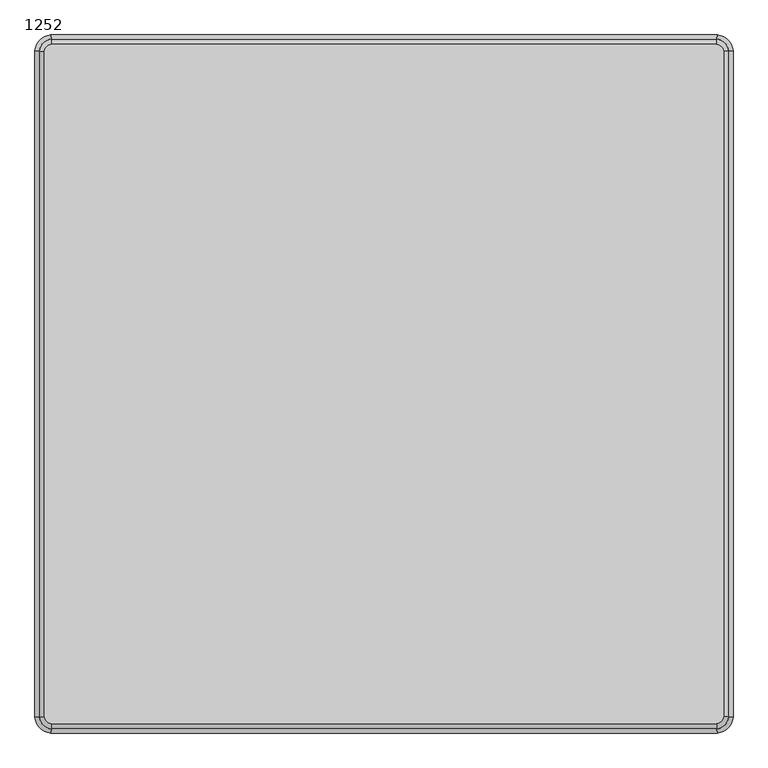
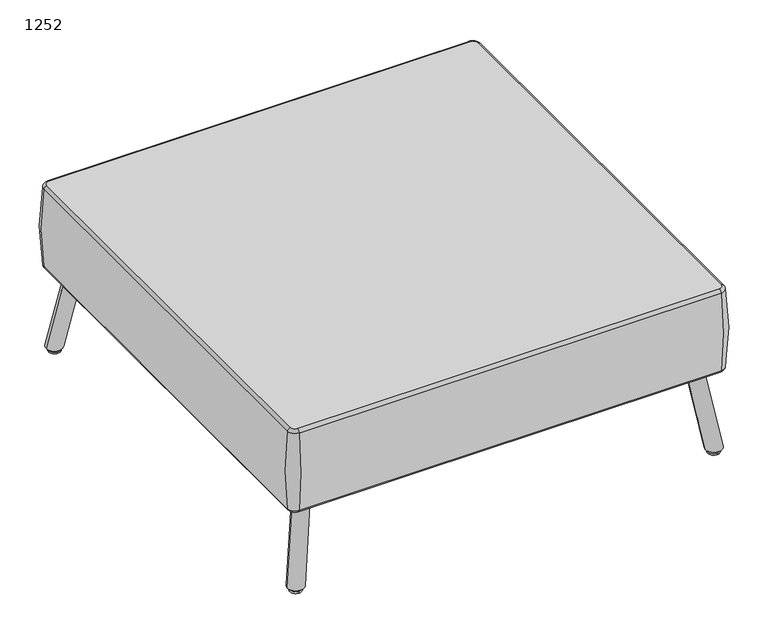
"""IFC4 building model written with IfcOpenShell, lengths in millimetres: furniture geometry, Laguna-Square_Ottomans-With_Legs-ERG : 1252."""

from ifc_helpers import new_model, si_unit, point, frame, frame_2d, origin, place, context, project, spatial, polyline, circle_curve, ellipse_curve, trimmed, segment, composite_curve, outline, extrude, source, transform, mapped, element, save
from ifc_brep_helpers import plane_surface, cylinder_surface, revolved_surface, spline_surface, advanced_brep


def furniture_1252_8d231d5f(model_context):
    return source(origin(), model_context, "Body", "SolidModel", [
        advanced_brep(
        [(-4847.9816838, 1430.0057923, 406.4), (-4858.5921184, 1419.3953577, 406.4), (-4858.5921184, 439.3163426, 406.4), (-4847.9816838, 428.705908, 406.4), (-3867.9026688, 428.705908, 406.4), (-3857.2922342, 439.3163426, 406.4), (-3857.2922342, 1419.3953577, 406.4), (-3867.9026688, 1430.0057923, 406.4), (-4858.5921184, 1419.3953577, 203.2), (-4847.9816838, 1430.0057923, 203.2), (-3867.9026688, 1430.0057923, 203.2), (-3857.2922342, 1419.3953577, 203.2), (-3857.2922342, 439.3163426, 203.2), (-3867.9026688, 428.705908, 203.2), (-4847.9816838, 428.705908, 203.2), (-4858.5921184, 439.3163426, 203.2), (-4866.1226616, 1419.9765501, 399.7887299), (-4848.5628762, 1437.5363354, 399.7887299), (-4848.5628762, 1437.5363354, 209.8112701), (-4866.1226616, 1419.9765501, 209.8112701), (-4866.1226616, 438.7351503, 209.8112701), (-4866.1226616, 438.7351503, 399.7887299), (-4848.5628762, 421.1753649, 209.8112701), (-4848.5628762, 421.1753649, 399.7887299), (-3867.3214764, 421.1753649, 209.8112701), (-3867.3214764, 421.1753649, 399.7887299), (-3849.7616911, 438.7351503, 209.8112701), (-3849.7616911, 438.7351503, 399.7887299), (-3849.7616911, 1419.9765501, 209.8112701), (-3849.7616911, 1419.9765501, 399.7887299), (-3867.3214764, 1437.5363354, 209.8112701), (-3867.3214764, 1437.5363354, 399.7887299)],
        [
            (0, 1, circle_curve(frame((-4847.0943054, 1418.5079793, 406.4), z_axis=(0.0, 0.0, 1.0), x_axis=(-0.07694918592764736, 0.997035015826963, 0.0)), 11.5320052)),
            (1, 2, circle_curve(frame((1490.877889, 929.3558502, 406.4), z_axis=(0.0, 0.0, 1.0), x_axis=(-0.9970350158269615, 0.07694918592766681, 0.0)), 6368.3520706)),
            (2, 3, circle_curve(frame((-4847.0943054, 440.2037211, 406.4), z_axis=(0.0, 0.0, 1.0), x_axis=(-0.9970350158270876, -0.07694918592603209, 0.0)), 11.5320052)),
            (3, 4, circle_curve(frame((-4357.9421763, 6778.1759155, 406.4), z_axis=(0.0, 0.0, 1.0), x_axis=(-0.07694918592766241, -0.9970350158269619, 0.0)), 6368.3520706)),
            (4, 5, circle_curve(frame((-3868.7900472, 440.2037211, 406.4), z_axis=(0.0, 0.0, 1.0), x_axis=(0.07694918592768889, -0.9970350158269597, 0.0)), 11.5320052)),
            (5, 6, circle_curve(frame((-10206.7622416, 929.3558502, 406.4), z_axis=(0.0, 0.0, 1.0), x_axis=(0.9970350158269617, -0.07694918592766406, 0.0)), 6368.3520706)),
            (6, 7, circle_curve(frame((-3868.7900472, 1418.5079793, 406.4), z_axis=(0.0, 0.0, 1.0), x_axis=(0.997035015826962, 0.07694918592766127, 0.0)), 11.5320052)),
            (7, 0, circle_curve(frame((-4357.9421763, -4919.4642152, 406.4), z_axis=(0.0, 0.0, 1.0), x_axis=(0.07694918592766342, 0.9970350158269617, 0.0)), 6368.3520706)),
            (8, 9, circle_curve(frame((-4847.0943054, 1418.5079793, 203.2), z_axis=(0.0, 0.0, -1.0), x_axis=(-0.07694918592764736, 0.997035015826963, 0.0)), 11.5320052)),
            (9, 10, circle_curve(frame((-4357.9421763, -4919.4642152, 203.2), z_axis=(0.0, 0.0, -1.0), x_axis=(0.07694918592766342, 0.9970350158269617, 0.0)), 6368.3520706)),
            (10, 11, circle_curve(frame((-3868.7900472, 1418.5079793, 203.2), z_axis=(0.0, 0.0, -1.0), x_axis=(0.997035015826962, 0.07694918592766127, 0.0)), 11.5320052)),
            (11, 12, circle_curve(frame((-10206.7622416, 929.3558502, 203.2), z_axis=(0.0, 0.0, -1.0), x_axis=(0.9970350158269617, -0.07694918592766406, 0.0)), 6368.3520706)),
            (12, 13, circle_curve(frame((-3868.7900472, 440.2037211, 203.2), z_axis=(0.0, 0.0, -1.0), x_axis=(0.07694918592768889, -0.9970350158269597, 0.0)), 11.5320052)),
            (13, 14, circle_curve(frame((-4357.9421763, 6778.1759155, 203.2), z_axis=(0.0, 0.0, -1.0), x_axis=(-0.07694918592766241, -0.9970350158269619, 0.0)), 6368.3520706)),
            (14, 15, circle_curve(frame((-4847.0943054, 440.2037211, 203.2), z_axis=(0.0, 0.0, -1.0), x_axis=(-0.9970350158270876, -0.07694918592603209, 0.0)), 11.5320052)),
            (15, 8, circle_curve(frame((1490.877889, 929.3558502, 203.2), z_axis=(0.0, 0.0, -1.0), x_axis=(-0.9970350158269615, 0.07694918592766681, 0.0)), 6368.3520706)),
            (16, 17, circle_curve(frame((-4847.0943054, 1418.5079793, 399.7887299), z_axis=(0.0, 0.0, -1.0), x_axis=(-0.07694918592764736, 0.997035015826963, 0.0)), 19.0849427)),
            (17, 18, circle_curve(frame((-4793.8339264, 728.4101931, 304.8), z_axis=(-0.997035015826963, -0.07694918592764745, 0.0), x_axis=(0.07694918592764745, -0.997035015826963, 0.0)), 717.55)),
            (18, 19, circle_curve(frame((-4847.0943054, 1418.5079793, 209.8112701), z_axis=(0.0, 0.0, 1.0), x_axis=(-0.07694918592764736, 0.997035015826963, 0.0)), 19.0849427)),
            (19, 16, circle_curve(frame((-4156.9965192, 1365.2476002, 304.8), z_axis=(0.07694918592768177, 0.9970350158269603, 0.0), x_axis=(0.9970350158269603, -0.07694918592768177, 0.0)), 717.55)),
            (16, 1, circle_curve(frame((-4858.5921184, 1419.3953577, 398.78), z_axis=(0.07694918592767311, 0.997035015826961, 0.0), x_axis=(0.997035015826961, -0.07694918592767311, 0.0)), 7.62)),
            (0, 17, circle_curve(frame((-4847.9816838, 1430.0057923, 398.78), z_axis=(-0.997035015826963, -0.07694918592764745, 0.0), x_axis=(0.07694918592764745, -0.997035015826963, 0.0)), 7.62)),
            (18, 9, circle_curve(frame((-4847.9816838, 1430.0057923, 210.82), z_axis=(-0.997035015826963, -0.07694918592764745, 0.0), x_axis=(0.07694918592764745, -0.997035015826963, 0.0)), 7.62)),
            (8, 19, circle_curve(frame((-4858.5921184, 1419.3953577, 210.82), z_axis=(0.07694918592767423, 0.9970350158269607, 0.0), x_axis=(0.9970350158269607, -0.07694918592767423, 0.0)), 7.62)),
            (19, 20, circle_curve(frame((1490.877889, 929.3558502, 209.8112701), z_axis=(0.0, 0.0, 1.0), x_axis=(-0.9970350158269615, 0.07694918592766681, 0.0)), 6375.905008)),
            (20, 21, circle_curve(frame((-4156.9965192, 493.4641001, 304.8), z_axis=(-0.07694918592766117, 0.997035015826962, 0.0), x_axis=(0.997035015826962, 0.07694918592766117, 0.0)), 717.55)),
            (21, 16, circle_curve(frame((1490.877889, 929.3558502, 399.7887299), z_axis=(0.0, 0.0, -1.0), x_axis=(-0.9970350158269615, 0.07694918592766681, 0.0)), 6375.905008)),
            (21, 2, circle_curve(frame((-4858.5921184, 439.3163426, 398.78), z_axis=(-0.07694918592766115, 0.997035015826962, 0.0), x_axis=(0.997035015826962, 0.07694918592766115, 0.0)), 7.62)),
            (15, 20, circle_curve(frame((-4858.5921184, 439.3163426, 210.82), z_axis=(-0.07694918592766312, 0.9970350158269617, 0.0), x_axis=(0.9970350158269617, 0.07694918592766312, 0.0)), 7.62)),
            (20, 22, circle_curve(frame((-4847.0943054, 440.2037211, 209.8112701), z_axis=(0.0, 0.0, 1.0), x_axis=(-0.9970350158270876, -0.07694918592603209, 0.0)), 19.0849427)),
            (22, 23, circle_curve(frame((-4793.8339264, 1130.3015072, 304.8), z_axis=(-0.9970350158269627, 0.07694918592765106, 0.0), x_axis=(0.07694918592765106, 0.9970350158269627, 0.0)), 717.55)),
            (23, 21, circle_curve(frame((-4847.0943054, 440.2037211, 399.7887299), z_axis=(0.0, 0.0, -1.0), x_axis=(-0.9970350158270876, -0.07694918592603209, 0.0)), 19.0849427)),
            (23, 3, circle_curve(frame((-4847.9816838, 428.705908, 398.78), z_axis=(-0.9970350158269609, 0.07694918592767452, 0.0), x_axis=(0.07694918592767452, 0.9970350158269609, 0.0)), 7.62)),
            (14, 22, circle_curve(frame((-4847.9816838, 428.705908, 210.82), z_axis=(-0.9970350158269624, 0.07694918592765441, 0.0), x_axis=(0.07694918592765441, 0.9970350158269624, 0.0)), 7.62)),
            (22, 24, circle_curve(frame((-4357.9421763, 6778.1759155, 209.8112701), z_axis=(0.0, 0.0, 1.0), x_axis=(-0.07694918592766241, -0.9970350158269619, 0.0)), 6375.905008)),
            (24, 25, circle_curve(frame((-3922.0504262, 1130.3015072, 304.8), z_axis=(-0.9970350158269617, -0.07694918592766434, 0.0), x_axis=(-0.07694918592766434, 0.9970350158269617, 0.0)), 717.55)),
            (25, 23, circle_curve(frame((-4357.9421763, 6778.1759155, 399.7887299), z_axis=(0.0, 0.0, -1.0), x_axis=(-0.07694918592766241, -0.9970350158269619, 0.0)), 6375.905008)),
            (25, 4, circle_curve(frame((-3867.9026688, 428.705908, 398.78), z_axis=(-0.9970350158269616, -0.07694918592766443, 0.0), x_axis=(-0.07694918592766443, 0.9970350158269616, 0.0)), 7.62)),
            (13, 24, circle_curve(frame((-3867.9026688, 428.705908, 210.82), z_axis=(-0.9970350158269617, -0.07694918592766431, 0.0), x_axis=(-0.07694918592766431, 0.9970350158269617, 0.0)), 7.62)),
            (24, 26, circle_curve(frame((-3868.7900472, 440.2037211, 209.8112701), z_axis=(0.0, 0.0, 1.0), x_axis=(0.07694918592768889, -0.9970350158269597, 0.0)), 19.0849427)),
            (26, 27, circle_curve(frame((-4558.8878334, 493.4641001, 304.8), z_axis=(-0.0769491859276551, -0.9970350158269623, 0.0), x_axis=(-0.9970350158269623, 0.0769491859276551, 0.0)), 717.55)),
            (27, 25, circle_curve(frame((-3868.7900472, 440.2037211, 399.7887299), z_axis=(0.0, 0.0, -1.0), x_axis=(0.07694918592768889, -0.9970350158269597, 0.0)), 19.0849427)),
            (27, 5, circle_curve(frame((-3857.2922342, 439.3163426, 398.78), z_axis=(-0.07694918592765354, -0.9970350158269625, 0.0), x_axis=(-0.9970350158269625, 0.07694918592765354, 0.0)), 7.62)),
            (12, 26, circle_curve(frame((-3857.2922342, 439.3163426, 210.82), z_axis=(-0.07694918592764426, -0.9970350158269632, 0.0), x_axis=(-0.9970350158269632, 0.07694918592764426, 0.0)), 7.62)),
            (26, 28, circle_curve(frame((-10206.7622416, 929.3558502, 209.8112701), z_axis=(0.0, 0.0, 1.0), x_axis=(0.9970350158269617, -0.07694918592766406, 0.0)), 6375.905008)),
            (28, 29, circle_curve(frame((-4558.8878334, 1365.2476002, 304.8), z_axis=(0.07694918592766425, -0.9970350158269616, 0.0), x_axis=(-0.9970350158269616, -0.07694918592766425, 0.0)), 717.55)),
            (29, 27, circle_curve(frame((-10206.7622416, 929.3558502, 399.7887299), z_axis=(0.0, 0.0, -1.0), x_axis=(0.9970350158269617, -0.07694918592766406, 0.0)), 6375.905008)),
            (29, 6, circle_curve(frame((-3857.2922342, 1419.3953577, 398.78), z_axis=(0.07694918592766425, -0.9970350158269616, 0.0), x_axis=(-0.9970350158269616, -0.07694918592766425, 0.0)), 7.62)),
            (11, 28, circle_curve(frame((-3857.2922342, 1419.3953577, 210.82), z_axis=(0.07694918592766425, -0.9970350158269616, 0.0), x_axis=(-0.9970350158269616, -0.07694918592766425, 0.0)), 7.62)),
            (28, 30, circle_curve(frame((-3868.7900472, 1418.5079793, 209.8112701), z_axis=(0.0, 0.0, 1.0), x_axis=(0.997035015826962, 0.07694918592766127, 0.0)), 19.0849427)),
            (30, 31, circle_curve(frame((-3922.0504262, 728.4101931, 304.8), z_axis=(0.9970350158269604, -0.07694918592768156, 0.0), x_axis=(-0.07694918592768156, -0.9970350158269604, 0.0)), 717.55)),
            (31, 29, circle_curve(frame((-3868.7900472, 1418.5079793, 399.7887299), z_axis=(0.0, 0.0, -1.0), x_axis=(0.997035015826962, 0.07694918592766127, 0.0)), 19.0849427)),
            (31, 7, circle_curve(frame((-3867.9026688, 1430.0057923, 398.78), z_axis=(0.9970350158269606, -0.07694918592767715, 0.0), x_axis=(-0.07694918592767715, -0.9970350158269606, 0.0)), 7.62)),
            (10, 30, circle_curve(frame((-3867.9026688, 1430.0057923, 210.82), z_axis=(0.9970350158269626, -0.07694918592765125, 0.0), x_axis=(-0.07694918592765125, -0.9970350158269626, 0.0)), 7.62)),
            (17, 31, circle_curve(frame((-4357.9421763, -4919.4642152, 399.7887299), z_axis=(0.0, 0.0, -1.0), x_axis=(0.07694918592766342, 0.9970350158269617, 0.0)), 6375.905008)),
            (30, 18, circle_curve(frame((-4357.9421763, -4919.4642152, 209.8112701), z_axis=(0.0, 0.0, 1.0), x_axis=(0.07694918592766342, 0.9970350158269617, 0.0)), 6375.905008)),
        ],
        [
            plane_surface(frame((-4835.5623002, 1418.5079793, 406.4), z_axis=(0.0, 0.0, 1.0), x_axis=(0.0, 1.0, 0.0))),
            plane_surface(frame((-4835.5623002, 1418.5079793, 203.2), z_axis=(0.0, 0.0, -1.0), x_axis=(0.0, -1.0, 0.0))),
            revolved_surface(trimmed(ellipse_curve(frame((-4793.8339264, 728.4101931, 304.8), z_axis=(0.997035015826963, 0.07694918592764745, 0.0), x_axis=(0.07694918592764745, -0.997035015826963, 0.0)), 717.55, 717.55), [point((-4848.5628762, 1437.5363354, 209.8112701))], [point((-4848.5628762, 1437.5363354, 399.7887299))], True, "CARTESIAN"), (-4847.0943054, 1418.5079793, 0.0), (0.0, 0.0, 1.0)),
            revolved_surface(trimmed(ellipse_curve(frame((-4847.9816838, 1430.0057923, 398.78), z_axis=(0.997035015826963, 0.07694918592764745, 0.0), x_axis=(0.07694918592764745, -0.997035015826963, 0.0)), 7.62, 7.62), [point((-4848.5628762, 1437.5363354, 399.7887299))], [point((-4847.9816838, 1430.0057923, 406.4))], True, "CARTESIAN"), (-4847.0943054, 1418.5079793, 0.0), (0.0, 0.0, 1.0)),
            revolved_surface(trimmed(ellipse_curve(frame((-4847.9816838, 1430.0057923, 210.82), z_axis=(0.997035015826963, 0.07694918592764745, 0.0), x_axis=(0.07694918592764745, -0.997035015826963, 0.0)), 7.62, 7.62), [point((-4847.9816838, 1430.0057923, 203.2))], [point((-4848.5628762, 1437.5363354, 209.8112701))], True, "CARTESIAN"), (-4847.0943054, 1418.5079793, 0.0), (0.0, 0.0, 1.0)),
            revolved_surface(trimmed(ellipse_curve(frame((-4156.9965192, 1365.2476002, 304.8), z_axis=(0.07694918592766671, 0.9970350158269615, 0.0), x_axis=(0.9970350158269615, -0.07694918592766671, 0.0)), 717.55, 717.55), [point((-4866.1226616, 1419.9765501, 209.8112701))], [point((-4866.1226616, 1419.9765501, 399.7887299))], True, "CARTESIAN"), (1490.877889, 929.3558502, 0.0), (0.0, 0.0, 1.0)),
            revolved_surface(trimmed(ellipse_curve(frame((-4858.5921184, 1419.3953577, 398.78), z_axis=(0.07694918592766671, 0.9970350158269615, 0.0), x_axis=(0.9970350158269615, -0.07694918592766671, 0.0)), 7.62, 7.62), [point((-4866.1226616, 1419.9765501, 399.7887299))], [point((-4858.5921184, 1419.3953577, 406.4))], True, "CARTESIAN"), (1490.877889, 929.3558502, 0.0), (0.0, 0.0, 1.0)),
            revolved_surface(trimmed(ellipse_curve(frame((-4858.5921184, 1419.3953577, 210.82), z_axis=(0.07694918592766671, 0.9970350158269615, 0.0), x_axis=(0.9970350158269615, -0.07694918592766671, 0.0)), 7.62, 7.62), [point((-4858.5921184, 1419.3953577, 203.2))], [point((-4866.1226616, 1419.9765501, 209.8112701))], True, "CARTESIAN"), (1490.877889, 929.3558502, 0.0), (0.0, 0.0, 1.0)),
            revolved_surface(trimmed(ellipse_curve(frame((-4156.9965192, 493.4641001, 304.8), z_axis=(-0.07694918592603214, 0.9970350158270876, 0.0), x_axis=(0.9970350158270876, 0.07694918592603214, 0.0)), 717.55, 717.55), [point((-4866.1226616, 438.7351503, 209.8112701))], [point((-4866.1226616, 438.7351503, 399.7887299))], True, "CARTESIAN"), (-4847.0943054, 440.2037211, 0.0), (0.0, 0.0, 1.0)),
            revolved_surface(trimmed(ellipse_curve(frame((-4858.5921184, 439.3163426, 398.78), z_axis=(-0.07694918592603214, 0.9970350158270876, 0.0), x_axis=(0.9970350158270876, 0.07694918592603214, 0.0)), 7.62, 7.62), [point((-4866.1226616, 438.7351503, 399.7887299))], [point((-4858.5921184, 439.3163426, 406.4))], True, "CARTESIAN"), (-4847.0943054, 440.2037211, 0.0), (0.0, 0.0, 1.0)),
            revolved_surface(trimmed(ellipse_curve(frame((-4858.5921184, 439.3163426, 210.82), z_axis=(-0.07694918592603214, 0.9970350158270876, 0.0), x_axis=(0.9970350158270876, 0.07694918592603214, 0.0)), 7.62, 7.62), [point((-4858.5921184, 439.3163426, 203.2))], [point((-4866.1226616, 438.7351503, 209.8112701))], True, "CARTESIAN"), (-4847.0943054, 440.2037211, 0.0), (0.0, 0.0, 1.0)),
            revolved_surface(trimmed(ellipse_curve(frame((-4793.8339264, 1130.3015072, 304.8), z_axis=(-0.9970350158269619, 0.07694918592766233, 0.0), x_axis=(0.07694918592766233, 0.9970350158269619, 0.0)), 717.55, 717.55), [point((-4848.5628762, 421.1753649, 209.8112701))], [point((-4848.5628762, 421.1753649, 399.7887299))], True, "CARTESIAN"), (-4357.9421763, 6778.1759155, 0.0), (0.0, 0.0, 1.0)),
            revolved_surface(trimmed(ellipse_curve(frame((-4847.9816838, 428.705908, 398.78), z_axis=(-0.9970350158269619, 0.07694918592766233, 0.0), x_axis=(0.07694918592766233, 0.9970350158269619, 0.0)), 7.62, 7.62), [point((-4848.5628762, 421.1753649, 399.7887299))], [point((-4847.9816838, 428.705908, 406.4))], True, "CARTESIAN"), (-4357.9421763, 6778.1759155, 0.0), (0.0, 0.0, 1.0)),
            revolved_surface(trimmed(ellipse_curve(frame((-4847.9816838, 428.705908, 210.82), z_axis=(-0.9970350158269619, 0.07694918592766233, 0.0), x_axis=(0.07694918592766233, 0.9970350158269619, 0.0)), 7.62, 7.62), [point((-4847.9816838, 428.705908, 203.2))], [point((-4848.5628762, 421.1753649, 209.8112701))], True, "CARTESIAN"), (-4357.9421763, 6778.1759155, 0.0), (0.0, 0.0, 1.0)),
            revolved_surface(trimmed(ellipse_curve(frame((-3922.0504262, 1130.3015072, 304.8), z_axis=(-0.9970350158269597, -0.07694918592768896, 0.0), x_axis=(-0.07694918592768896, 0.9970350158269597, 0.0)), 717.55, 717.55), [point((-3867.3214764, 421.1753649, 209.8112701))], [point((-3867.3214764, 421.1753649, 399.7887299))], True, "CARTESIAN"), (-3868.7900472, 440.2037211, 0.0), (0.0, 0.0, 1.0)),
            revolved_surface(trimmed(ellipse_curve(frame((-3867.9026688, 428.705908, 398.78), z_axis=(-0.9970350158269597, -0.07694918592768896, 0.0), x_axis=(-0.07694918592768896, 0.9970350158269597, 0.0)), 7.62, 7.62), [point((-3867.3214764, 421.1753649, 399.7887299))], [point((-3867.9026688, 428.705908, 406.4))], True, "CARTESIAN"), (-3868.7900472, 440.2037211, 0.0), (0.0, 0.0, 1.0)),
            revolved_surface(trimmed(ellipse_curve(frame((-3867.9026688, 428.705908, 210.82), z_axis=(-0.9970350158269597, -0.07694918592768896, 0.0), x_axis=(-0.07694918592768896, 0.9970350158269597, 0.0)), 7.62, 7.62), [point((-3867.9026688, 428.705908, 203.2))], [point((-3867.3214764, 421.1753649, 209.8112701))], True, "CARTESIAN"), (-3868.7900472, 440.2037211, 0.0), (0.0, 0.0, 1.0)),
            revolved_surface(trimmed(ellipse_curve(frame((-4558.8878334, 493.4641001, 304.8), z_axis=(-0.07694918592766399, -0.9970350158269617, 0.0), x_axis=(-0.9970350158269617, 0.07694918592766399, 0.0)), 717.55, 717.55), [point((-3849.7616911, 438.7351503, 209.8112701))], [point((-3849.7616911, 438.7351503, 399.7887299))], True, "CARTESIAN"), (-10206.7622416, 929.3558502, 0.0), (0.0, 0.0, 1.0)),
            revolved_surface(trimmed(ellipse_curve(frame((-3857.2922342, 439.3163426, 398.78), z_axis=(-0.07694918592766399, -0.9970350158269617, 0.0), x_axis=(-0.9970350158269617, 0.07694918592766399, 0.0)), 7.62, 7.62), [point((-3849.7616911, 438.7351503, 399.7887299))], [point((-3857.2922342, 439.3163426, 406.4))], True, "CARTESIAN"), (-10206.7622416, 929.3558502, 0.0), (0.0, 0.0, 1.0)),
            revolved_surface(trimmed(ellipse_curve(frame((-3857.2922342, 439.3163426, 210.82), z_axis=(-0.07694918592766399, -0.9970350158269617, 0.0), x_axis=(-0.9970350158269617, 0.07694918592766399, 0.0)), 7.62, 7.62), [point((-3857.2922342, 439.3163426, 203.2))], [point((-3849.7616911, 438.7351503, 209.8112701))], True, "CARTESIAN"), (-10206.7622416, 929.3558502, 0.0), (0.0, 0.0, 1.0)),
            revolved_surface(trimmed(ellipse_curve(frame((-4558.8878334, 1365.2476002, 304.8), z_axis=(0.0769491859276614, -0.997035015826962, 0.0), x_axis=(-0.997035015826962, -0.0769491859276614, 0.0)), 717.55, 717.55), [point((-3849.7616911, 1419.9765501, 209.8112701))], [point((-3849.7616911, 1419.9765501, 399.7887299))], True, "CARTESIAN"), (-3868.7900472, 1418.5079793, 0.0), (0.0, 0.0, 1.0)),
            revolved_surface(trimmed(ellipse_curve(frame((-3857.2922342, 1419.3953577, 398.78), z_axis=(0.0769491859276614, -0.997035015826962, 0.0), x_axis=(-0.997035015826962, -0.0769491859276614, 0.0)), 7.62, 7.62), [point((-3849.7616911, 1419.9765501, 399.7887299))], [point((-3857.2922342, 1419.3953577, 406.4))], True, "CARTESIAN"), (-3868.7900472, 1418.5079793, 0.0), (0.0, 0.0, 1.0)),
            revolved_surface(trimmed(ellipse_curve(frame((-3857.2922342, 1419.3953577, 210.82), z_axis=(0.0769491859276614, -0.997035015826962, 0.0), x_axis=(-0.997035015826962, -0.0769491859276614, 0.0)), 7.62, 7.62), [point((-3857.2922342, 1419.3953577, 203.2))], [point((-3849.7616911, 1419.9765501, 209.8112701))], True, "CARTESIAN"), (-3868.7900472, 1418.5079793, 0.0), (0.0, 0.0, 1.0)),
            revolved_surface(trimmed(ellipse_curve(frame((-3922.0504262, 728.4101931, 304.8), z_axis=(0.9970350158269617, -0.07694918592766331, 0.0), x_axis=(-0.07694918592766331, -0.9970350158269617, 0.0)), 717.55, 717.55), [point((-3867.3214764, 1437.5363354, 209.8112701))], [point((-3867.3214764, 1437.5363354, 399.7887299))], True, "CARTESIAN"), (-4357.9421763, -4919.4642152, 0.0), (0.0, 0.0, 1.0)),
            revolved_surface(trimmed(ellipse_curve(frame((-3867.9026688, 1430.0057923, 398.78), z_axis=(0.9970350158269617, -0.07694918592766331, 0.0), x_axis=(-0.07694918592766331, -0.9970350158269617, 0.0)), 7.62, 7.62), [point((-3867.3214764, 1437.5363354, 399.7887299))], [point((-3867.9026688, 1430.0057923, 406.4))], True, "CARTESIAN"), (-4357.9421763, -4919.4642152, 0.0), (0.0, 0.0, 1.0)),
            revolved_surface(trimmed(ellipse_curve(frame((-3867.9026688, 1430.0057923, 210.82), z_axis=(0.9970350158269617, -0.07694918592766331, 0.0), x_axis=(-0.07694918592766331, -0.9970350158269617, 0.0)), 7.62, 7.62), [point((-3867.9026688, 1430.0057923, 203.2))], [point((-3867.3214764, 1437.5363354, 209.8112701))], True, "CARTESIAN"), (-4357.9421763, -4919.4642152, 0.0), (0.0, 0.0, 1.0)),
        ],
        [
            (0, [[1, 2, 3, 4, 5, 6, 7, 8]]),
            (1, [[9, 10, 11, 12, 13, 14, 15, 16]]),
            (2, [[17, 18, 19, 20]]),
            (3, [[-17, 21, -1, 22]]),
            (4, [[-19, 23, -9, 24]]),
            (5, [[-20, 25, 26, 27]]),
            (6, [[-21, -27, 28, -2]]),
            (7, [[-24, -16, 29, -25]]),
            (8, [[-26, 30, 31, 32]]),
            (9, [[-28, -32, 33, -3]]),
            (10, [[-29, -15, 34, -30]]),
            (11, [[-31, 35, 36, 37]]),
            (12, [[-33, -37, 38, -4]]),
            (13, [[-34, -14, 39, -35]]),
            (14, [[-36, 40, 41, 42]]),
            (15, [[-38, -42, 43, -5]]),
            (16, [[-39, -13, 44, -40]]),
            (17, [[-41, 45, 46, 47]]),
            (18, [[-43, -47, 48, -6]]),
            (19, [[-44, -12, 49, -45]]),
            (20, [[-46, 50, 51, 52]]),
            (21, [[-48, -52, 53, -7]]),
            (22, [[-49, -11, 54, -50]]),
            (23, [[-18, 55, -51, 56]]),
            (24, [[-22, -8, -53, -55]]),
            (25, [[-23, -56, -54, -10]]),
        ],
    ),
        extrude(outline(composite_curve([segment(trimmed(circle_curve(frame_2d((-4806.8187381, 1421.3376413)), 5.08), [point((-4810.4108405, 1424.9297438))], [point((-4803.2266356, 1424.9297438))], False, "CARTESIAN"), True, "CONTINUOUS"), segment(polyline([(-4803.2266356, 1424.9297438), (-4774.489816, 1396.1929242)]), True, "CONTINUOUS"), segment(trimmed(circle_curve(frame_2d((-4778.0819185, 1392.6008217)), 5.08), [point((-4774.489816, 1396.1929242))], [point((-4774.489816, 1389.0087193))], False, "CARTESIAN"), True, "CONTINUOUS"), segment(polyline([(-4774.489816, 1389.0087193), (-4817.5950454, 1345.9034899)]), True, "CONTINUOUS"), segment(trimmed(circle_curve(frame_2d((-4821.1871479, 1349.4955923)), 5.08), [point((-4817.5950454, 1345.9034899))], [point((-4824.7792503, 1345.9034899))], False, "CARTESIAN"), True, "CONTINUOUS"), segment(polyline([(-4824.7792503, 1345.9034899), (-4853.5160699, 1374.6403095)]), True, "CONTINUOUS"), segment(trimmed(circle_curve(frame_2d((-4849.9239674, 1378.2324119)), 5.08), [point((-4853.5160699, 1374.6403095))], [point((-4853.5160699, 1381.8245144))], False, "CARTESIAN"), True, "CONTINUOUS"), segment(polyline([(-4853.5160699, 1381.8245144), (-4810.4108405, 1424.9297438)]), True, "CONTINUOUS")], self_intersect=False)), frame((0.0, 0.0, 200.66), z_axis=(0.0, 0.0, 1.0), x_axis=(1.0, 0.0, 0.0)), (0.0, 0.0, 1.0), 2.54),
        extrude(outline(composite_curve([segment(polyline([(-3905.4735121, 1424.9297438), (-3862.3682827, 1381.8245144)]), True, "CONTINUOUS"), segment(trimmed(circle_curve(frame_2d((-3865.9603852, 1378.2324119)), 5.08), [point((-3862.3682827, 1381.8245144))], [point((-3862.3682827, 1374.6403095))], False, "CARTESIAN"), True, "CONTINUOUS"), segment(polyline([(-3862.3682827, 1374.6403095), (-3891.1051023, 1345.9034899)]), True, "CONTINUOUS"), segment(trimmed(circle_curve(frame_2d((-3894.6972048, 1349.4955923)), 5.08), [point((-3891.1051023, 1345.9034899))], [point((-3898.2893072, 1345.9034899))], False, "CARTESIAN"), True, "CONTINUOUS"), segment(polyline([(-3898.2893072, 1345.9034899), (-3941.3945366, 1389.0087193)]), True, "CONTINUOUS"), segment(trimmed(circle_curve(frame_2d((-3937.8024341, 1392.6008217)), 5.08), [point((-3941.3945366, 1389.0087193))], [point((-3941.3945366, 1396.1929242))], False, "CARTESIAN"), True, "CONTINUOUS"), segment(polyline([(-3941.3945366, 1396.1929242), (-3912.657717, 1424.9297438)]), True, "CONTINUOUS"), segment(trimmed(circle_curve(frame_2d((-3909.0656145, 1421.3376413)), 5.08), [point((-3912.657717, 1424.9297438))], [point((-3905.4735121, 1424.9297438))], False, "CARTESIAN"), True, "CONTINUOUS")], self_intersect=False)), frame((0.0, 0.0, 200.66), z_axis=(0.0, 0.0, 1.0), x_axis=(1.0, 0.0, 0.0)), (0.0, 0.0, 1.0), 2.54),
        extrude(outline(composite_curve([segment(trimmed(circle_curve(frame_2d((-3865.9603852, 480.4792884)), 5.08), [point((-3862.3682827, 484.0713909))], [point((-3862.3682827, 476.887186))], False, "CARTESIAN"), True, "CONTINUOUS"), segment(polyline([(-3862.3682827, 476.887186), (-3905.4735121, 433.7819566)]), True, "CONTINUOUS"), segment(trimmed(circle_curve(frame_2d((-3909.0656145, 437.374059)), 5.08), [point((-3905.4735121, 433.7819566))], [point((-3912.657717, 433.7819566))], False, "CARTESIAN"), True, "CONTINUOUS"), segment(polyline([(-3912.657717, 433.7819566), (-3941.3945366, 462.5187762)]), True, "CONTINUOUS"), segment(trimmed(circle_curve(frame_2d((-3937.8024341, 466.1108786)), 5.08), [point((-3941.3945366, 462.5187762))], [point((-3941.3945366, 469.7029811))], False, "CARTESIAN"), True, "CONTINUOUS"), segment(polyline([(-3941.3945366, 469.7029811), (-3898.2893072, 512.8082105)]), True, "CONTINUOUS"), segment(trimmed(circle_curve(frame_2d((-3894.6972048, 509.216108)), 5.08), [point((-3898.2893072, 512.8082105))], [point((-3891.1051023, 512.8082105))], False, "CARTESIAN"), True, "CONTINUOUS"), segment(polyline([(-3891.1051023, 512.8082105), (-3862.3682827, 484.0713909)]), True, "CONTINUOUS")], self_intersect=False)), frame((0.0, 0.0, 200.66), z_axis=(0.0, 0.0, 1.0), x_axis=(1.0, 0.0, 0.0)), (0.0, 0.0, 1.0), 2.54),
        extrude(outline(composite_curve([segment(polyline([(-4817.5950454, 512.8082105), (-4774.489816, 469.7029811)]), True, "CONTINUOUS"), segment(trimmed(circle_curve(frame_2d((-4778.0819185, 466.1108786)), 5.08), [point((-4774.489816, 469.7029811))], [point((-4774.489816, 462.5187762))], False, "CARTESIAN"), True, "CONTINUOUS"), segment(polyline([(-4774.489816, 462.5187762), (-4803.2266356, 433.7819566)]), True, "CONTINUOUS"), segment(trimmed(circle_curve(frame_2d((-4806.8187381, 437.374059)), 5.08), [point((-4803.2266356, 433.7819566))], [point((-4810.4108405, 433.7819566))], False, "CARTESIAN"), True, "CONTINUOUS"), segment(polyline([(-4810.4108405, 433.7819566), (-4853.5160699, 476.887186)]), True, "CONTINUOUS"), segment(trimmed(circle_curve(frame_2d((-4849.9239674, 480.4792884)), 5.08), [point((-4853.5160699, 476.887186))], [point((-4853.5160699, 484.0713909))], False, "CARTESIAN"), True, "CONTINUOUS"), segment(polyline([(-4853.5160699, 484.0713909), (-4824.7792503, 512.8082105)]), True, "CONTINUOUS"), segment(trimmed(circle_curve(frame_2d((-4821.1871479, 509.216108)), 5.08), [point((-4824.7792503, 512.8082105))], [point((-4817.5950454, 512.8082105))], False, "CARTESIAN"), True, "CONTINUOUS")], self_intersect=False)), frame((0.0, 0.0, 200.66), z_axis=(0.0, 0.0, 1.0), x_axis=(1.0, 0.0, 0.0)), (0.0, 0.0, 1.0), 2.54),
        advanced_brep(
        [(-4843.7048436, 447.836231, 10.16), (-4843.7048436, 439.3501347, 10.16), (-4843.7048436, 439.3501347, 3.9615026), (-4843.7048436, 447.836231, 3.9615026), (-4843.7048436, 429.5148294, 3.9615026), (-4843.7048436, 457.6715363, 3.9615026), (-4843.7048436, 429.5148294, 0.0), (-4843.7048436, 457.6715363, 0.0), (-4843.7048436, 443.5931828, 0.0), (-4843.7048436, 443.5931828, 10.16)],
        [
            (0, 1, circle_curve(frame((-4843.7048436, 443.5931828, 10.16), z_axis=(0.0, 0.0, -1.0), x_axis=(0.0, -1.0, 0.0)), 4.2430482)),
            (1, 2),
            (2, 3, circle_curve(frame((-4843.7048436, 443.5931828, 3.9615026), z_axis=(0.0, 0.0, 1.0), x_axis=(0.0, -1.0, 0.0)), 4.2430482)),
            (3, 0),
            (1, 0, circle_curve(frame((-4843.7048436, 443.5931828, 10.16), z_axis=(0.0, 0.0, -1.0), x_axis=(0.0, -1.0, 0.0)), 4.2430482)),
            (3, 2, circle_curve(frame((-4843.7048436, 443.5931828, 3.9615026), z_axis=(0.0, 0.0, 1.0), x_axis=(0.0, -1.0, 0.0)), 4.2430482)),
            (2, 4),
            (4, 5, circle_curve(frame((-4843.7048436, 443.5931828, 3.9615026), z_axis=(0.0, 0.0, 1.0), x_axis=(0.0, -1.0, 0.0)), 14.0783534)),
            (5, 3),
            (5, 4, circle_curve(frame((-4843.7048436, 443.5931828, 3.9615026), z_axis=(0.0, 0.0, 1.0), x_axis=(0.0, -1.0, 0.0)), 14.0783534)),
            (4, 6),
            (6, 7, circle_curve(frame((-4843.7048436, 443.5931828, 0.0), z_axis=(0.0, 0.0, 1.0), x_axis=(0.0, -1.0, 0.0)), 14.0783534)),
            (7, 5),
            (7, 6, circle_curve(frame((-4843.7048436, 443.5931828, 0.0), z_axis=(0.0, 0.0, 1.0), x_axis=(0.0, -1.0, 0.0)), 14.0783534)),
            (6, 8),
            (8, 7),
            (9, 1),
            (0, 9),
        ],
        [
            cylinder_surface(frame((-4843.7048436, 443.5931828, 20.9252452), z_axis=(0.0, 0.0, 1.0), x_axis=(0.0, -1.0, 0.0)), 4.2430482),
            plane_surface(frame((-4843.7048436, 443.5931828, 3.9615026), z_axis=(0.0, 0.0, 1.0), x_axis=(0.0, -1.0, 0.0))),
            cylinder_surface(frame((-4843.7048436, 443.5931828, 20.9252452), z_axis=(0.0, 0.0, 1.0), x_axis=(0.0, -1.0, 0.0)), 14.0783534),
            plane_surface(frame((-4843.7048436, 443.5931828, 0.0), z_axis=(0.0, 0.0, -1.0), x_axis=(0.0, -1.0, 0.0))),
            plane_surface(frame((-4843.7048436, 443.5931828, 10.16), z_axis=(0.0, 0.0, 1.0), x_axis=(0.0, -1.0, 0.0))),
        ],
        [
            (0, [[1, 2, 3, 4]]),
            (0, [[5, -4, 6, -2]]),
            (1, [[-3, 7, 8, 9]]),
            (1, [[-6, -9, 10, -7]]),
            (2, [[-8, 11, 12, 13]]),
            (2, [[-10, -13, 14, -11]]),
            (3, [[-12, 15, 16]]),
            (3, [[-14, -16, -15]]),
            (4, [[17, -1, 18]]),
            (4, [[-18, -5, -17]]),
        ],
    ),
        advanced_brep(
        [(-4843.7048436, 1419.3615656, 3.9615026), (-4843.7048436, 1410.8754693, 3.9615026), (-4843.7048436, 1401.0401641, 3.9615026), (-4843.7048436, 1429.1968709, 3.9615026), (-4843.7048436, 1401.0401641, 0.0), (-4843.7048436, 1429.1968709, 0.0), (-4843.7048436, 1415.1185175, 0.0), (-4843.7048436, 1415.1185175, 10.16), (-4843.7048436, 1410.8754693, 10.16), (-4843.7048436, 1419.3615656, 10.16)],
        [
            (0, 1, circle_curve(frame((-4843.7048436, 1415.1185175, 3.9615026), z_axis=(0.0, 0.0, -1.0), x_axis=(0.0, -1.0, 0.0)), 4.2430481)),
            (1, 2),
            (2, 3, circle_curve(frame((-4843.7048436, 1415.1185175, 3.9615026), z_axis=(0.0, 0.0, 1.0), x_axis=(0.0, -1.0, 0.0)), 14.0783534)),
            (3, 0),
            (1, 0, circle_curve(frame((-4843.7048436, 1415.1185175, 3.9615026), z_axis=(0.0, 0.0, -1.0), x_axis=(0.0, -1.0, 0.0)), 4.2430481)),
            (3, 2, circle_curve(frame((-4843.7048436, 1415.1185175, 3.9615026), z_axis=(0.0, 0.0, 1.0), x_axis=(0.0, -1.0, 0.0)), 14.0783534)),
            (2, 4),
            (4, 5, circle_curve(frame((-4843.7048436, 1415.1185175, 0.0), z_axis=(0.0, 0.0, 1.0), x_axis=(0.0, -1.0, 0.0)), 14.0783534)),
            (5, 3),
            (5, 4, circle_curve(frame((-4843.7048436, 1415.1185175, 0.0), z_axis=(0.0, 0.0, 1.0), x_axis=(0.0, -1.0, 0.0)), 14.0783534)),
            (4, 6),
            (6, 5),
            (7, 8),
            (8, 9, circle_curve(frame((-4843.7048436, 1415.1185175, 10.16), z_axis=(0.0, 0.0, 1.0), x_axis=(0.0, -1.0, 0.0)), 4.2430481)),
            (9, 7),
            (9, 8, circle_curve(frame((-4843.7048436, 1415.1185175, 10.16), z_axis=(0.0, 0.0, 1.0), x_axis=(0.0, -1.0, 0.0)), 4.2430481)),
            (8, 1),
            (0, 9),
        ],
        [
            plane_surface(frame((-4843.7048436, 1415.1185175, 3.9615026), z_axis=(0.0, 0.0, 1.0), x_axis=(0.0, -1.0, 0.0))),
            cylinder_surface(frame((-4843.7048436, 1415.1185175, 29.21), z_axis=(0.0, 0.0, 1.0), x_axis=(0.0, -1.0, 0.0)), 14.0783534),
            plane_surface(frame((-4843.7048436, 1415.1185175, 0.0), z_axis=(0.0, 0.0, -1.0), x_axis=(0.0, -1.0, 0.0))),
            plane_surface(frame((-4843.7048436, 1415.1185175, 10.16), z_axis=(0.0, 0.0, 1.0), x_axis=(0.0, -1.0, 0.0))),
            cylinder_surface(frame((-4843.7048436, 1415.1185175, 29.21), z_axis=(0.0, 0.0, 1.0), x_axis=(0.0, -1.0, 0.0)), 4.2430481),
        ],
        [
            (0, [[1, 2, 3, 4]]),
            (0, [[5, -4, 6, -2]]),
            (1, [[-3, 7, 8, 9]]),
            (1, [[-6, -9, 10, -7]]),
            (2, [[-8, 11, 12]]),
            (2, [[-10, -12, -11]]),
            (3, [[13, 14, 15]]),
            (3, [[-15, 16, -13]]),
            (4, [[-14, 17, -1, 18]]),
            (4, [[-16, -18, -5, -17]]),
        ],
    ),
        advanced_brep(
        [(-3872.179509, 447.836231, 3.9615026), (-3872.179509, 439.3501347, 3.9615026), (-3872.179509, 439.3501347, 10.16), (-3872.179509, 447.836231, 10.16), (-3872.179509, 457.6715363, 3.9615026), (-3872.179509, 429.5148294, 3.9615026), (-3872.179509, 457.6715363, 0.0), (-3872.179509, 429.5148294, 0.0), (-3872.179509, 443.5931828, 0.0), (-3872.179509, 443.5931828, 10.16)],
        [
            (0, 1, circle_curve(frame((-3872.179509, 443.5931828, 3.9615026), z_axis=(0.0, 0.0, 1.0), x_axis=(0.0, -1.0, 0.0)), 4.2430482)),
            (1, 2),
            (2, 3, circle_curve(frame((-3872.179509, 443.5931828, 10.16), z_axis=(0.0, 0.0, -1.0), x_axis=(0.0, -1.0, 0.0)), 4.2430482)),
            (3, 0),
            (1, 0, circle_curve(frame((-3872.179509, 443.5931828, 3.9615026), z_axis=(0.0, 0.0, 1.0), x_axis=(0.0, -1.0, 0.0)), 4.2430482)),
            (3, 2, circle_curve(frame((-3872.179509, 443.5931828, 10.16), z_axis=(0.0, 0.0, -1.0), x_axis=(0.0, -1.0, 0.0)), 4.2430482)),
            (4, 5, circle_curve(frame((-3872.179509, 443.5931828, 3.9615026), z_axis=(0.0, 0.0, 1.0), x_axis=(0.0, -1.0, 0.0)), 14.0783534)),
            (5, 1),
            (0, 4),
            (5, 4, circle_curve(frame((-3872.179509, 443.5931828, 3.9615026), z_axis=(0.0, 0.0, 1.0), x_axis=(0.0, -1.0, 0.0)), 14.0783534)),
            (6, 7, circle_curve(frame((-3872.179509, 443.5931828, 0.0), z_axis=(0.0, 0.0, 1.0), x_axis=(0.0, -1.0, 0.0)), 14.0783534)),
            (7, 5),
            (4, 6),
            (7, 6, circle_curve(frame((-3872.179509, 443.5931828, 0.0), z_axis=(0.0, 0.0, 1.0), x_axis=(0.0, -1.0, 0.0)), 14.0783534)),
            (8, 7),
            (6, 8),
            (2, 9),
            (9, 3),
        ],
        [
            cylinder_surface(frame((-3872.179509, 443.5931828, 20.9252452), z_axis=(0.0, 0.0, -1.0), x_axis=(0.0, -1.0, 0.0)), 4.2430482),
            plane_surface(frame((-3872.179509, 443.5931828, 3.9615026), z_axis=(0.0, 0.0, 1.0), x_axis=(0.0, -1.0, 0.0))),
            cylinder_surface(frame((-3872.179509, 443.5931828, 20.9252452), z_axis=(0.0, 0.0, -1.0), x_axis=(0.0, -1.0, 0.0)), 14.0783534),
            plane_surface(frame((-3872.179509, 443.5931828, 0.0), z_axis=(0.0, 0.0, -1.0), x_axis=(0.0, -1.0, 0.0))),
            plane_surface(frame((-3872.179509, 443.5931828, 10.16), z_axis=(0.0, 0.0, 1.0), x_axis=(0.0, -1.0, 0.0))),
        ],
        [
            (0, [[1, 2, 3, 4]]),
            (0, [[5, -4, 6, -2]]),
            (1, [[7, 8, -1, 9]]),
            (1, [[10, -9, -5, -8]]),
            (2, [[11, 12, -7, 13]]),
            (2, [[14, -13, -10, -12]]),
            (3, [[15, -11, 16]]),
            (3, [[-16, -14, -15]]),
            (4, [[-3, 17, 18]]),
            (4, [[-6, -18, -17]]),
        ],
    ),
        advanced_brep(
        [(-3872.179509, 1429.1968709, 3.9615026), (-3872.179509, 1401.0401641, 3.9615026), (-3872.179509, 1410.8754693, 3.9615026), (-3872.179509, 1419.3615656, 3.9615026), (-3872.179509, 1429.1968709, 0.0), (-3872.179509, 1401.0401641, 0.0), (-3872.179509, 1415.1185175, 0.0), (-3872.179509, 1419.3615656, 10.16), (-3872.179509, 1410.8754693, 10.16), (-3872.179509, 1415.1185175, 10.16)],
        [
            (0, 1, circle_curve(frame((-3872.179509, 1415.1185175, 3.9615026), z_axis=(0.0, 0.0, 1.0), x_axis=(0.0, -1.0, 0.0)), 14.0783534)),
            (1, 2),
            (2, 3, circle_curve(frame((-3872.179509, 1415.1185175, 3.9615026), z_axis=(0.0, 0.0, -1.0), x_axis=(0.0, -1.0, 0.0)), 4.2430481)),
            (3, 0),
            (1, 0, circle_curve(frame((-3872.179509, 1415.1185175, 3.9615026), z_axis=(0.0, 0.0, 1.0), x_axis=(0.0, -1.0, 0.0)), 14.0783534)),
            (3, 2, circle_curve(frame((-3872.179509, 1415.1185175, 3.9615026), z_axis=(0.0, 0.0, -1.0), x_axis=(0.0, -1.0, 0.0)), 4.2430481)),
            (4, 5, circle_curve(frame((-3872.179509, 1415.1185175, 0.0), z_axis=(0.0, 0.0, 1.0), x_axis=(0.0, -1.0, 0.0)), 14.0783534)),
            (5, 1),
            (0, 4),
            (5, 4, circle_curve(frame((-3872.179509, 1415.1185175, 0.0), z_axis=(0.0, 0.0, 1.0), x_axis=(0.0, -1.0, 0.0)), 14.0783534)),
            (6, 5),
            (4, 6),
            (7, 8, circle_curve(frame((-3872.179509, 1415.1185175, 10.16), z_axis=(0.0, 0.0, 1.0), x_axis=(0.0, -1.0, 0.0)), 4.2430481)),
            (8, 9),
            (9, 7),
            (8, 7, circle_curve(frame((-3872.179509, 1415.1185175, 10.16), z_axis=(0.0, 0.0, 1.0), x_axis=(0.0, -1.0, 0.0)), 4.2430481)),
            (2, 8),
            (7, 3),
        ],
        [
            plane_surface(frame((-3872.179509, 1415.1185175, 3.9615026), z_axis=(0.0, 0.0, 1.0), x_axis=(0.0, -1.0, 0.0))),
            cylinder_surface(frame((-3872.179509, 1415.1185175, 29.21), z_axis=(0.0, 0.0, -1.0), x_axis=(0.0, -1.0, 0.0)), 14.0783534),
            plane_surface(frame((-3872.179509, 1415.1185175, 0.0), z_axis=(0.0, 0.0, -1.0), x_axis=(0.0, -1.0, 0.0))),
            plane_surface(frame((-3872.179509, 1415.1185175, 10.16), z_axis=(0.0, 0.0, 1.0), x_axis=(0.0, -1.0, 0.0))),
            cylinder_surface(frame((-3872.179509, 1415.1185175, 29.21), z_axis=(0.0, 0.0, -1.0), x_axis=(0.0, -1.0, 0.0)), 4.2430481),
        ],
        [
            (0, [[1, 2, 3, 4]]),
            (0, [[5, -4, 6, -2]]),
            (1, [[7, 8, -1, 9]]),
            (1, [[10, -9, -5, -8]]),
            (2, [[11, -7, 12]]),
            (2, [[-12, -10, -11]]),
            (3, [[13, 14, 15]]),
            (3, [[16, -15, -14]]),
            (4, [[-3, 17, -13, 18]]),
            (4, [[-6, -18, -16, -17]]),
        ],
    ),
        advanced_brep(
        [(-4794.948749, 473.3091293, 203.2), (-4833.0290453, 473.3091293, 203.2), (-4824.5889568, 443.6309276, 10.16), (-4862.7452409, 443.6309276, 10.16)],
        [
            (0, 1, circle_curve(frame((-4813.9888971, 473.3091293, 203.2), z_axis=(0.0, 0.0, 1.0), x_axis=(-1.0, 0.0, 0.0)), 19.0401482)),
            (1, 0, circle_curve(frame((-4813.9888971, 473.3091293, 203.2), z_axis=(0.0, 0.0, 1.0), x_axis=(-1.0, 0.0, 0.0)), 19.0401482)),
            (2, 3, circle_curve(frame((-4843.6670988, 443.6309276, 10.16), z_axis=(0.0, 0.0, -1.0), x_axis=(-1.0, 0.0, 0.0)), 19.078142)),
            (3, 2, circle_curve(frame((-4843.6670988, 443.6309276, 10.16), z_axis=(0.0, 0.0, -1.0), x_axis=(-1.0, 0.0, 0.0)), 19.078142)),
            (2, 0),
            (1, 3),
        ],
        [
            plane_surface(frame((-4813.9888971, 473.3091293, 203.2), z_axis=(0.0, 0.0, 1.0), x_axis=(0.0, 1.0, 0.0))),
            plane_surface(frame((-4843.6670988, 443.6309276, 10.16), z_axis=(0.0, 0.0, -1.0), x_axis=(0.0, 1.0, 0.0))),
            spline_surface(2, 1, [[(-4862.7452409, 443.6309276, 10.16), (-4833.0290453, 473.3091293, 203.2)], [(-4862.7452409, 424.55278549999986, 10.16), (-4833.0290453, 454.26898110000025, 203.2)], [(-4843.6670988, 424.55278549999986, 10.16), (-4813.9888971, 454.26898110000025, 203.2)], [(-4824.5889566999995, 424.5527853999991, 10.16), (-4794.9487489, 454.26898100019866, 203.2)], [(-4824.5889568, 443.6309276, 10.16), (-4794.948749, 473.3091293, 203.2)]], [3, 2, 3], [2, 2], [0.0, 1.0, 2.0], [0.0, 1.0], weights=[[1.0, 1.0], [0.7071067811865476, 0.7071067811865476], [1.0, 1.0], [0.7071067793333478, 0.7071067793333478], [1.0, 1.0]]),
            spline_surface(2, 1, [[(-4824.5889568, 443.6309276, 10.16), (-4794.948749, 473.3091293, 203.2)], [(-4824.5889568, 462.7090695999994, 10.16), (-4794.948749, 492.3492773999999, 203.2)], [(-4843.6670988, 462.7090695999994, 10.16), (-4813.9888971, 492.3492773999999, 203.2)], [(-4862.745240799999, 462.70906949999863, 10.16), (-4833.0290452, 492.3492773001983, 203.2)], [(-4862.7452409, 443.6309276, 10.16), (-4833.0290453, 473.3091293, 203.2)]], [3, 2, 3], [2, 2], [0.0, 1.0, 2.0], [0.0, 1.0], weights=[[1.0, 1.0], [0.7071067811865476, 0.7071067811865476], [1.0, 1.0], [0.7071067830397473, 0.7071067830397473], [1.0, 1.0]]),
        ],
        [
            (0, [[1, 2]]),
            (1, [[3, 4]]),
            (2, [[-3, 5, -2, 6]]),
            (3, [[-4, -6, -1, -5]]),
        ],
    ),
        advanced_brep(
        [(-4794.948749, 1385.402571, 203.2), (-4833.0290453, 1385.402571, 203.2), (-4824.5889568, 1415.0807727, 10.16), (-4862.7452409, 1415.0807727, 10.16)],
        [
            (0, 1, circle_curve(frame((-4813.9888971, 1385.402571, 203.2), z_axis=(0.0, 0.0, 1.0), x_axis=(-1.0, 0.0, 0.0)), 19.0401482)),
            (1, 0, circle_curve(frame((-4813.9888971, 1385.402571, 203.2), z_axis=(0.0, 0.0, 1.0), x_axis=(-1.0, 0.0, 0.0)), 19.0401482)),
            (2, 3, circle_curve(frame((-4843.6670988, 1415.0807727, 10.16), z_axis=(0.0, 0.0, -1.0), x_axis=(-1.0, 0.0, 0.0)), 19.078142)),
            (3, 2, circle_curve(frame((-4843.6670988, 1415.0807727, 10.16), z_axis=(0.0, 0.0, -1.0), x_axis=(-1.0, 0.0, 0.0)), 19.078142)),
            (3, 1),
            (0, 2),
        ],
        [
            plane_surface(frame((-4813.9888971, 1385.402571, 203.2), z_axis=(0.0, 0.0, 1.0), x_axis=(0.0, 1.0, 0.0))),
            plane_surface(frame((-4843.6670988, 1415.0807727, 10.16), z_axis=(0.0, 0.0, -1.0), x_axis=(0.0, 1.0, 0.0))),
            spline_surface(2, 1, [[(-4824.5889568, 1415.0807727, 10.16), (-4794.948749, 1385.402571, 203.2)], [(-4824.5889568, 1434.1589146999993, 10.16), (-4794.948749, 1404.4427191, 203.2)], [(-4843.6670988, 1434.1589146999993, 10.16), (-4813.9888971, 1404.4427191, 203.2)], [(-4862.745240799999, 1434.1589145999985, 10.16), (-4833.0290452, 1404.4427190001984, 203.2)], [(-4862.7452409, 1415.0807727, 10.16), (-4833.0290453, 1385.402571, 203.2)]], [3, 2, 3], [2, 2], [0.0, 1.0, 2.0], [0.0, 1.0], weights=[[1.0, 1.0], [0.7071067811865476, 0.7071067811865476], [1.0, 1.0], [0.7071067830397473, 0.7071067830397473], [1.0, 1.0]]),
            spline_surface(2, 1, [[(-4862.7452409, 1415.0807727, 10.16), (-4833.0290453, 1385.402571, 203.2)], [(-4862.7452409, 1396.0026305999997, 10.16), (-4833.0290453, 1366.3624228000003, 203.2)], [(-4843.6670988, 1396.0026305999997, 10.16), (-4813.9888971, 1366.3624228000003, 203.2)], [(-4824.5889566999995, 1396.002630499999, 10.16), (-4794.9487489, 1366.3624227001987, 203.2)], [(-4824.5889568, 1415.0807727, 10.16), (-4794.948749, 1385.402571, 203.2)]], [3, 2, 3], [2, 2], [0.0, 1.0, 2.0], [0.0, 1.0], weights=[[1.0, 1.0], [0.7071067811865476, 0.7071067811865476], [1.0, 1.0], [0.7071067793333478, 0.7071067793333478], [1.0, 1.0]]),
        ],
        [
            (0, [[1, 2]]),
            (1, [[3, 4]]),
            (2, [[-4, 5, -1, 6]]),
            (3, [[-3, -6, -2, -5]]),
        ],
    ),
        advanced_brep(
        [(-3920.9356037, 1385.402571, 203.2), (-3882.8553073, 1385.402571, 203.2), (-3891.2953958, 1415.0807727, 10.16), (-3853.1391118, 1415.0807727, 10.16)],
        [
            (0, 1, circle_curve(frame((-3901.8954555, 1385.402571, 203.2), z_axis=(0.0, 0.0, 1.0), x_axis=(1.0, 0.0, 0.0)), 19.0401482)),
            (1, 0, circle_curve(frame((-3901.8954555, 1385.402571, 203.2), z_axis=(0.0, 0.0, 1.0), x_axis=(1.0, 0.0, 0.0)), 19.0401482)),
            (2, 3, circle_curve(frame((-3872.2172538, 1415.0807727, 10.16), z_axis=(0.0, 0.0, -1.0), x_axis=(1.0, 0.0, 0.0)), 19.078142)),
            (3, 2, circle_curve(frame((-3872.2172538, 1415.0807727, 10.16), z_axis=(0.0, 0.0, -1.0), x_axis=(1.0, 0.0, 0.0)), 19.078142)),
            (2, 0),
            (1, 3),
        ],
        [
            plane_surface(frame((-3901.8954555, 1385.402571, 203.2), z_axis=(0.0, 0.0, 1.0), x_axis=(0.0, -1.0, 0.0))),
            plane_surface(frame((-3872.2172538, 1415.0807727, 10.16), z_axis=(0.0, 0.0, -1.0), x_axis=(0.0, -1.0, 0.0))),
            spline_surface(2, 1, [[(-3853.1391118, 1415.0807727, 10.16), (-3882.8553073, 1385.402571, 203.2)], [(-3853.1391118, 1434.1589146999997, 10.16), (-3882.8553073, 1404.4427192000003, 203.2)], [(-3872.2172538, 1434.1589146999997, 10.16), (-3901.8954555, 1404.4427192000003, 203.2)], [(-3891.2953958, 1434.1589146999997, 10.16), (-3920.9356037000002, 1404.4427192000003, 203.2)], [(-3891.2953958, 1415.0807727, 10.16), (-3920.9356037, 1385.402571, 203.2)]], [3, 2, 3], [2, 2], [0.0, 1.0, 2.0], [0.0, 1.0], weights=[[1.0, 1.0], [0.7071067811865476, 0.7071067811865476], [1.0, 1.0], [0.7071067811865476, 0.7071067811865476], [1.0, 1.0]]),
            spline_surface(2, 1, [[(-3891.2953958, 1415.0807727, 10.16), (-3920.9356037, 1385.402571, 203.2)], [(-3891.2953958, 1396.0026307, 10.16), (-3920.9356037, 1366.3624228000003, 203.2)], [(-3872.2172538, 1396.0026307, 10.16), (-3901.8954555, 1366.3624228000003, 203.2)], [(-3853.1391118, 1396.0026307, 10.16), (-3882.8553073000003, 1366.3624228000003, 203.2)], [(-3853.1391118, 1415.0807727, 10.16), (-3882.8553073, 1385.402571, 203.2)]], [3, 2, 3], [2, 2], [0.0, 1.0, 2.0], [0.0, 1.0], weights=[[1.0, 1.0], [0.7071067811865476, 0.7071067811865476], [1.0, 1.0], [0.7071067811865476, 0.7071067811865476], [1.0, 1.0]]),
        ],
        [
            (0, [[1, 2]]),
            (1, [[3, 4]]),
            (2, [[-3, 5, -2, 6]]),
            (3, [[-4, -6, -1, -5]]),
        ],
    ),
        advanced_brep(
        [(-3920.9356037, 473.3091293, 203.2), (-3882.8553073, 473.3091293, 203.2), (-3891.2953958, 443.6309276, 10.16), (-3853.1391118, 443.6309276, 10.16)],
        [
            (0, 1, circle_curve(frame((-3901.8954555, 473.3091293, 203.2), z_axis=(0.0, 0.0, 1.0), x_axis=(1.0, 0.0, 0.0)), 19.0401482)),
            (1, 0, circle_curve(frame((-3901.8954555, 473.3091293, 203.2), z_axis=(0.0, 0.0, 1.0), x_axis=(1.0, 0.0, 0.0)), 19.0401482)),
            (2, 3, circle_curve(frame((-3872.2172538, 443.6309276, 10.16), z_axis=(0.0, 0.0, -1.0), x_axis=(1.0, 0.0, 0.0)), 19.078142)),
            (3, 2, circle_curve(frame((-3872.2172538, 443.6309276, 10.16), z_axis=(0.0, 0.0, -1.0), x_axis=(1.0, 0.0, 0.0)), 19.078142)),
            (3, 1),
            (0, 2),
        ],
        [
            plane_surface(frame((-3901.8954555, 473.3091293, 203.2), z_axis=(0.0, 0.0, 1.0), x_axis=(0.0, -1.0, 0.0))),
            plane_surface(frame((-3872.2172538, 443.6309276, 10.16), z_axis=(0.0, 0.0, -1.0), x_axis=(0.0, -1.0, 0.0))),
            spline_surface(2, 1, [[(-3891.2953958, 443.6309276, 10.16), (-3920.9356037, 473.3091293, 203.2)], [(-3891.2953958, 424.55278560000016, 10.16), (-3920.9356037, 454.26898110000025, 203.2)], [(-3872.2172538, 424.55278560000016, 10.16), (-3901.8954555, 454.26898110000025, 203.2)], [(-3853.1391118, 424.55278560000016, 10.16), (-3882.8553073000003, 454.26898110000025, 203.2)], [(-3853.1391118, 443.6309276, 10.16), (-3882.8553073, 473.3091293, 203.2)]], [3, 2, 3], [2, 2], [0.0, 1.0, 2.0], [0.0, 1.0], weights=[[1.0, 1.0], [0.7071067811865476, 0.7071067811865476], [1.0, 1.0], [0.7071067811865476, 0.7071067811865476], [1.0, 1.0]]),
            spline_surface(2, 1, [[(-3853.1391118, 443.6309276, 10.16), (-3882.8553073, 473.3091293, 203.2)], [(-3853.1391118, 462.70906959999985, 10.16), (-3882.8553073, 492.3492775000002, 203.2)], [(-3872.2172538, 462.70906959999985, 10.16), (-3901.8954555, 492.3492775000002, 203.2)], [(-3891.2953958, 462.70906959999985, 10.16), (-3920.9356037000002, 492.3492775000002, 203.2)], [(-3891.2953958, 443.6309276, 10.16), (-3920.9356037, 473.3091293, 203.2)]], [3, 2, 3], [2, 2], [0.0, 1.0, 2.0], [0.0, 1.0], weights=[[1.0, 1.0], [0.7071067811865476, 0.7071067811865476], [1.0, 1.0], [0.7071067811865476, 0.7071067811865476], [1.0, 1.0]]),
        ],
        [
            (0, [[1, 2]]),
            (1, [[3, 4]]),
            (2, [[-4, 5, -1, 6]]),
            (3, [[-3, -6, -2, -5]]),
        ],
    ),
    ])


if __name__ == "__main__":
    model = new_model("IFC4")
    model_context = context("Model", 3, world=origin())
    ifc_project = project(units=[si_unit("LENGTHUNIT", "METRE", prefix="MILLI")], contexts=[model_context])
    site = spatial("IfcSite", under=ifc_project)
    building = spatial("IfcBuilding", under=site)
    placement = place(None, origin())
    furniture_1252_shape = furniture_1252_8d231d5f(model_context)
    element("IfcFurniture", 1, ObjectType="Laguna-Square_Ottomans-With_Legs-ERG : 1252", at=placement, inside=building, context=model_context, shape_type="MappedRepresentation", body=[
        mapped(furniture_1252_shape, transform((0.0, 0.0, 0.0), x_axis=(1.0, 0.0, 0.0), y_axis=(0.0, 1.0, 0.0), z_axis=(0.0, 0.0, 1.0))),
    ])
    save(model, "model.ifc")
